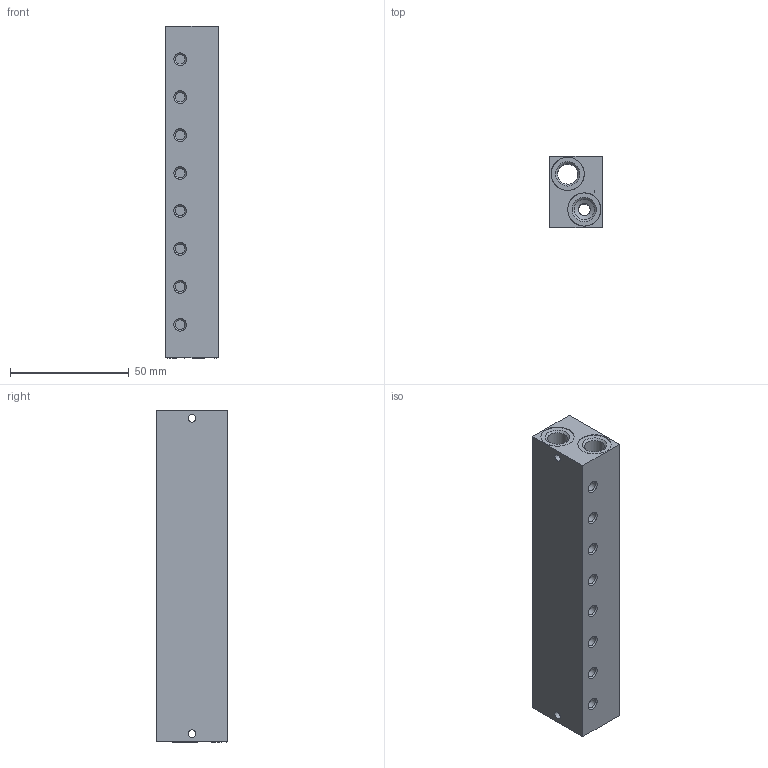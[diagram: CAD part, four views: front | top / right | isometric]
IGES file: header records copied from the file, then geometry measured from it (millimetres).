
Global section: file name: 355_08; native system: Autodesk Inventor 2014; preprocessor: unknown; author: R.Rivoltella; organization: Pneumax S.p.A.; date: 20161003.105301; units: millimetre
Bounding box: 22 x 30 x 140 mm (x, y, z)
Volume: 78996.6 mm3; surface area: 23663.5 mm2
Topology: 1 solids, 1 shells, 102 faces, 304 edges, 218 vertices
Faces by surface type: bspline 102
